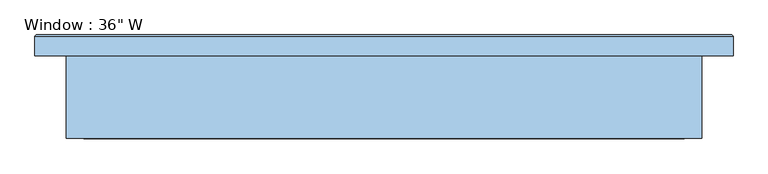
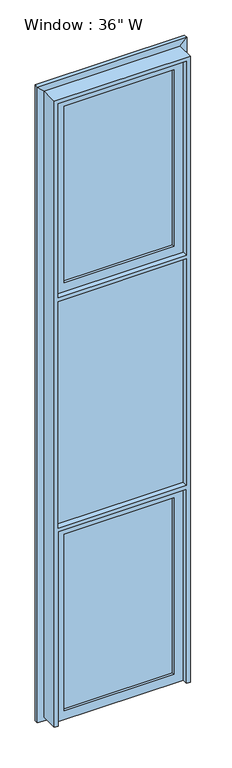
"""IFC4 building model written with IfcOpenShell, lengths in millimetres: window geometry."""

import ifcopenshell
import ifcopenshell.guid

model = None  # the IFC model being written
_history = None  # IfcOwnerHistory: only IFC2X3 demands one
_inside = {}  # id of a spatial element -> (the spatial element, [elements in it])
_under = {}  # id of a project, library or spatial element -> (it, [spatial elements below it])
_declared = {}  # id of a project -> (the project, [libraries it declares])
_typed = {}  # id of a type object -> (the type object, [elements of that type])
_made_of = {}  # id of a material, layer set ... -> (it, [elements and type objects made of it])


def new_model(schema):
    """Start an empty IFC model of exactly this schema.

    Asked for "IFC4X3", IfcOpenShell would pick the latest addendum, in which some entities
    have other attributes; the version numbers below select the first issue.
    IFC2X3 requires an IfcOwnerHistory on every rooted entity: one is made here for all.
    """
    global model, _history
    if schema == "IFC4X3":
        model = ifcopenshell.file(schema_version=(4, 3, 0, 0))
    else:
        model = ifcopenshell.file(schema=schema)
    _inside.clear()
    _under.clear()
    _declared.clear()
    _typed.clear()
    _made_of.clear()
    _history = None
    if model.schema == "IFC2X3":
        org = make("IfcOrganization", Name="unknown")
        user = make(
            "IfcPersonAndOrganization",
            ThePerson=make("IfcPerson", FamilyName="unknown"),
            TheOrganization=org,
        )
        app = make(
            "IfcApplication",
            ApplicationDeveloper=org,
            Version="unknown",
            ApplicationFullName="unknown",
            ApplicationIdentifier="unknown",
        )
        _history = make(
            "IfcOwnerHistory",
            OwningUser=user,
            OwningApplication=app,
            ChangeAction="ADDED",
            CreationDate=0,
        )
    return model


def make(cls, **values):
    """One entity of the class cls with the attributes given. An attribute that is None is left unset."""
    return model.create_entity(
        cls, **{name: value for name, value in values.items() if value is not None}
    )


def rooted(cls, **values):
    """An entity with a GlobalId (a new one), such as an element, a storey or a relation."""
    return make(cls, GlobalId=ifcopenshell.guid.new(), OwnerHistory=_history, **values)


def si_unit(unit_type, name, prefix=None):
    """IfcSIUnit, for example si_unit("LENGTHUNIT", "METRE", prefix="MILLI")."""
    return make("IfcSIUnit", UnitType=unit_type, Prefix=prefix, Name=name)


def assignment(units):
    """IfcUnitAssignment: the units of a project."""
    return None if units is None else make("IfcUnitAssignment", Units=units)


def point(xyz):
    """IfcCartesianPoint."""
    return None if xyz is None else make("IfcCartesianPoint", Coordinates=xyz)


def direction(xyz):
    """IfcDirection."""
    return None if xyz is None else make("IfcDirection", DirectionRatios=xyz)


def frame(location, z_axis=None, x_axis=None):
    """IfcAxis2Placement3D, a coordinate frame: its origin and axes. An axis left out is left unset."""
    return make(
        "IfcAxis2Placement3D",
        Location=point(location),
        Axis=direction(z_axis),
        RefDirection=direction(x_axis),
    )


def origin():
    """The frame at (0, 0, 0) with its axes left unset."""
    return frame((0.0, 0.0, 0.0))


def place(relative_to, where):
    """IfcLocalPlacement: puts the frame where relative to a parent placement (None: the world)."""
    return make(
        "IfcLocalPlacement", PlacementRelTo=relative_to, RelativePlacement=where
    )


def context(
    kind, dimensions, precision=None, world=None, true_north=None, identifier=None
):
    """IfcGeometricRepresentationContext, for example the 3D "Model" context."""
    return make(
        "IfcGeometricRepresentationContext",
        ContextIdentifier=identifier,
        ContextType=kind,
        CoordinateSpaceDimension=dimensions,
        Precision=precision,
        WorldCoordinateSystem=world,
        TrueNorth=true_north,
    )


def project(units=None, contexts=None):
    """IfcProject with its units and contexts."""
    return rooted(
        "IfcProject",
        Name="project",
        RepresentationContexts=contexts,
        UnitsInContext=assignment(units),
    )


def spatial(cls, under=None, at=None, **own):
    """A site, building, storey or space (cls), placed at a placement, below another one or the project."""
    s = rooted(cls, ObjectPlacement=at, **own)
    if under is not None:
        _under.setdefault(under.id(), (under, []))[1].append(s)
    return s


def polyline(points):
    """IfcPolyline through the points."""
    return make("IfcPolyline", Points=[point(p) for p in points])


def ellipse_curve(where, semi_axis1, semi_axis2):
    """IfcEllipse in the frame where."""
    return make(
        "IfcEllipse", Position=where, SemiAxis1=semi_axis1, SemiAxis2=semi_axis2
    )


def outline(outer, holes=None, kind="AREA"):
    """IfcArbitraryClosedProfileDef: a profile drawn as a closed curve; with holes, ...WithVoids."""
    if holes is None:
        return make("IfcArbitraryClosedProfileDef", ProfileType=kind, OuterCurve=outer)
    return make(
        "IfcArbitraryProfileDefWithVoids",
        ProfileType=kind,
        OuterCurve=outer,
        InnerCurves=holes,
    )


def extrude(swept, where, along, depth):
    """IfcExtrudedAreaSolid: the profile swept, set in the frame where, extruded along a direction by depth."""
    return make(
        "IfcExtrudedAreaSolid",
        SweptArea=swept,
        Position=where,
        ExtrudedDirection=direction(along),
        Depth=depth,
    )


def faces_of(points, faces, orient=None, outer=None):
    """IfcFace entities. A face is a list of loops; a loop is a list of indices into points, from 0.

    orient and outer hold one flag for each loop. By default every Orientation is true, the
    first loop of a face is its IfcFaceOuterBound and the others are IfcFaceBound.
    """
    made = []
    for i, loops in enumerate(faces):
        bounds = []
        for j, loop in enumerate(loops):
            is_outer = j == 0 if outer is None else outer[i][j]
            bounds.append(
                make(
                    "IfcFaceOuterBound" if is_outer else "IfcFaceBound",
                    Bound=make("IfcPolyLoop", Polygon=[points[k] for k in loop]),
                    Orientation=True if orient is None else orient[i][j],
                )
            )
        made.append(make("IfcFace", Bounds=bounds))
    return made


def faceted_brep(points, faces, orient=None, outer=None, voids=None):
    """IfcFacetedBrep: a solid bounded by flat faces; with voids (closed shells), ...WithVoids."""
    shared = [point(p) for p in points]
    hull = make("IfcClosedShell", CfsFaces=faces_of(shared, faces, orient, outer))
    if voids is None:
        return make("IfcFacetedBrep", Outer=hull)
    return make(
        "IfcFacetedBrepWithVoids",
        Outer=hull,
        Voids=[
            make(cls, CfsFaces=faces_of(shared, fs, o, b)) for cls, fs, o, b in voids
        ],
    )


def shape(context_of_items, identifier, shape_type, items):
    """IfcShapeRepresentation: the items that make up one representation, for example the "Body"."""
    return make(
        "IfcShapeRepresentation",
        ContextOfItems=context_of_items,
        RepresentationIdentifier=identifier,
        RepresentationType=shape_type,
        Items=items,
    )


def source(mapping_origin, context_of_items, identifier, shape_type, items):
    """IfcRepresentationMap: a shape defined once, which mapped items show again and again."""
    return make(
        "IfcRepresentationMap",
        MappingOrigin=mapping_origin,
        MappedRepresentation=shape(context_of_items, identifier, shape_type, items),
    )


def transform(
    local_origin,
    x_axis=None,
    y_axis=None,
    z_axis=None,
    scale=None,
    scale2=None,
    scale3=None,
    uniform=True,
):
    """IfcCartesianTransformationOperator3D, or its non-uniform kind. x_axis, y_axis, z_axis: its Axis1, 2, 3."""
    if uniform:
        return make(
            "IfcCartesianTransformationOperator3D",
            Axis1=direction(x_axis),
            Axis2=direction(y_axis),
            LocalOrigin=point(local_origin),
            Scale=scale,
            Axis3=direction(z_axis),
        )
    return make(
        "IfcCartesianTransformationOperator3DnonUniform",
        Axis1=direction(x_axis),
        Axis2=direction(y_axis),
        LocalOrigin=point(local_origin),
        Scale=scale,
        Axis3=direction(z_axis),
        Scale2=scale2,
        Scale3=scale3,
    )


def mapped(mapping_source, mapping_target):
    """IfcMappedItem: shows the shape of a source again, moved by a transform."""
    return make(
        "IfcMappedItem", MappingSource=mapping_source, MappingTarget=mapping_target
    )


def made_of(thing, what):
    """Note that an element or type object is made of a material, layer set ...; save() writes the relation."""
    if what is not None:
        _made_of.setdefault(what.id(), (what, []))[1].append(thing)
    return thing


def element(
    cls,
    number,
    at=None,
    inside=None,
    cuts=None,
    type_object=None,
    material=None,
    context=None,
    identifier="Body",
    shape_type=None,
    held_by="IfcProductDefinitionShape",
    body=None,
    shapes=None,
    **own,
):
    """One element of the class cls, such as IfcWall. Its Tag is "e" and its number.

    at: its placement. inside: the storey or other place that contains it. cuts: it is an
    opening in that element (IfcRelVoidsElement). A single representation is given by context,
    identifier, shape_type and body (its items); several are given by shapes. held_by: the class
    of the entity that holds the representations. save() writes the other relations.
    """
    e = rooted(cls, Tag="e%d" % number, ObjectPlacement=at, **own)
    if body is not None:
        shapes = [shape(context, identifier, shape_type, body)]
    if shapes is not None:
        e.Representation = make(held_by, Representations=shapes)
    if inside is not None:
        _inside.setdefault(inside.id(), (inside, []))[1].append(e)
    if cuts is not None:
        rooted(
            "IfcRelVoidsElement", RelatingBuildingElement=cuts, RelatedOpeningElement=e
        )
    if type_object is not None:
        _typed.setdefault(type_object.id(), (type_object, []))[1].append(e)
    return made_of(e, material)


def aggregate(whole, parts):
    """IfcRelAggregates: a whole, such as a stair, and the parts it consists of."""
    return rooted("IfcRelAggregates", RelatingObject=whole, RelatedObjects=parts)


def save(model, path):
    """Write the relations noted so far, then the file.

    IfcRelAggregates (storeys below a building ...), IfcRelContainedInSpatialStructure (elements
    in a storey), IfcRelDefinesByType, IfcRelAssociatesMaterial and IfcRelDeclares: one each for
    every whole, place, type object, material and project.
    """
    for whole, parts in _under.values():
        aggregate(whole, parts)
    for where, things in _inside.values():
        rooted(
            "IfcRelContainedInSpatialStructure",
            RelatedElements=things,
            RelatingStructure=where,
        )
    for kind, things in _typed.values():
        rooted("IfcRelDefinesByType", RelatedObjects=things, RelatingType=kind)
    for what, things in _made_of.values():
        rooted("IfcRelAssociatesMaterial", RelatedObjects=things, RelatingMaterial=what)
    for by, libraries in _declared.values():
        rooted("IfcRelDeclares", RelatingContext=by, RelatedDefinitions=libraries)
    model.write(path)


def plane_surface(at):
    """IfcPlane: the flat surface through the origin of the frame at, square to its z axis."""
    return make("IfcPlane", Position=at)


def cylinder_surface(at, radius):
    """IfcCylindricalSurface: all points at the distance radius from the z axis of the frame at."""
    return make("IfcCylindricalSurface", Position=at, Radius=radius)


def advanced_brep(points, edges, surfaces, faces):
    """IfcAdvancedBrep: a solid bounded by faces that lie on surfaces and meet in shared edges.

    An edge is (start, end): straight between two places in points (the first is 0);
    or (start, end, curve); or (start, end, curve, False) where it runs against its curve.
    A face is (place in surfaces, loops), or (place, loops, False) where it looks against
    its surface's normal. A loop lists edges by number (the first is 1), with a minus sign
    where the edge is run from its end to its start. The first loop is the outer one.
    """
    corners = [point(p) for p in points]
    vertices = [make("IfcVertexPoint", VertexGeometry=c) for c in corners]
    made = []
    for start, end, *more in edges:
        made.append(
            make(
                "IfcEdgeCurve",
                EdgeStart=vertices[start],
                EdgeEnd=vertices[end],
                EdgeGeometry=more[0] if more else make("IfcPolyline", Points=[corners[start], corners[end]]),
                SameSense=more[1] if len(more) > 1 else True,
            )
        )
    hull = []
    for where, loops, *sense in faces:
        bounds = []
        for j, loop in enumerate(loops):
            ring = [make("IfcOrientedEdge", EdgeElement=made[abs(k) - 1], Orientation=k > 0) for k in loop]
            bounds.append(
                make(
                    "IfcFaceOuterBound" if j == 0 else "IfcFaceBound",
                    Bound=make("IfcEdgeLoop", EdgeList=ring),
                    Orientation=True,
                )
            )
        hull.append(make("IfcAdvancedFace", Bounds=bounds, FaceSurface=surfaces[where], SameSense=sense[0] if sense else True))
    return make("IfcAdvancedBrep", Outer=make("IfcClosedShell", CfsFaces=hull))


def window_fc414b9c(model_context):
    return source(origin(), model_context, "Body", "SolidModel", [
        faceted_brep([(444.5, 119.0625, 781.05), (446.4950984, 121.0575984, 781.05), (446.745064, 121.307564, 781.05), (472.145064, 121.307564, 781.05), (474.3901281, 123.5526281, 781.05), (499.7901281, 123.5526281, 781.05), (502.0351921, 121.307564, 781.05), (502.0351921, 121.0575984, 781.05), (502.0351921, 93.6625, 781.05), (444.5, 93.6625, 781.05), (444.5, 119.0625, 781.5176691), (444.5, 119.0625, 5232.4), (446.745064, 121.307564, 5234.645064), (472.145064, 121.307564, 5260.045064), (474.3901281, 123.5526281, 5262.2901281), (499.7901281, 123.5526281, 5287.6901281), (502.0351921, 121.307564, 5289.9351921), (502.0351921, 93.6625, 5289.9351921), (502.0351921, 93.6625, 787.4716586), (444.5, 93.6625, 5232.4), (444.5, 93.6625, 787.4716586), (-444.5, 119.0625, 5232.4), (-446.745064, 121.307564, 5234.645064), (-472.145064, 121.307564, 5260.045064), (-474.3901281, 123.5526281, 5262.2901281), (-499.7901281, 123.5526281, 5287.6901281), (-502.0351921, 121.307564, 5289.9351921), (-502.0351921, 93.6625, 5289.9351921), (-444.5, 93.6625, 5232.4), (-444.5, 119.0625, 781.05), (-444.5, 93.6625, 781.05), (-502.0351921, 93.6625, 781.05), (-502.0351921, 121.0575984, 781.05), (-502.0351921, 121.307564, 781.05), (-499.7901281, 123.5526281, 781.05), (-474.3901281, 123.5526281, 781.05), (-472.145064, 121.307564, 781.05), (-446.745064, 121.307564, 781.05), (-446.4950984, 121.0575984, 781.05), (-444.5, 119.0625, 781.5176691), (-502.0351921, 93.6625, 787.4716586), (-444.5, 93.6625, 787.4716586)], [[[0, 1, 2, 3, 4, 5, 6, 7, 8, 9]], [[2, 1, 0, 10, 11, 12]], [[3, 2, 12, 13]], [[4, 3, 13, 14]], [[5, 4, 14, 15]], [[6, 5, 15, 16]], [[8, 7, 6, 16, 17, 18]], [[9, 8, 18, 17, 19, 20]], [[0, 9, 20, 19, 11, 10]], [[12, 11, 21, 22]], [[13, 12, 22, 23]], [[14, 13, 23, 24]], [[15, 14, 24, 25]], [[16, 15, 25, 26]], [[17, 16, 26, 27]], [[19, 17, 27, 28]], [[11, 19, 28, 21]], [[29, 30, 31, 32, 33, 34, 35, 36, 37, 38]], [[22, 21, 39, 29, 38, 37]], [[23, 22, 37, 36]], [[24, 23, 36, 35]], [[25, 24, 35, 34]], [[26, 25, 34, 33]], [[27, 26, 33, 32, 31, 40]], [[28, 27, 40, 31, 30, 41]], [[21, 28, 41, 30, 29, 39]]]),
        extrude(outline(polyline([(2184.4, -431.8), (806.45, -431.8), (806.45, 431.8), (2184.4, 431.8), (2184.4, -431.8)]), holes=[polyline([(2120.9, -368.3), (2120.9, 368.3), (869.95, 368.3), (869.95, -368.3), (2120.9, -368.3)])]), frame((0.0, 12.7, 0.0), z_axis=(0.0, 1.0, 0.0), x_axis=(0.0, 0.0, 1.0)), (0.0, 0.0, 1.0), 50.6015625),
        extrude(outline(polyline([(5219.7, -431.8), (3841.75, -431.8), (3841.75, 431.8), (5219.7, 431.8), (5219.7, -431.8)]), holes=[polyline([(5156.2, -368.3), (5156.2, 368.3), (3905.25, 368.3), (3905.25, -368.3), (5156.2, -368.3)])]), frame((0.0, 12.7, 0.0), z_axis=(0.0, 1.0, 0.0), x_axis=(0.0, 0.0, 1.0)), (0.0, 0.0, 1.0), 50.6015625),
        extrude(outline(polyline([(431.8, 12.7), (-431.8, 12.7), (-431.8, 63.3015625), (431.8, 63.3015625), (431.8, 12.7)])), frame((0.0, 0.0, 2209.8), z_axis=(0.0, 0.0, 1.0), x_axis=(1.0, 0.0, 0.0)), (0.0, 0.0, 1.0), 1606.55),
        extrude(outline(polyline([(5245.1, -457.2), (806.45, -457.2), (806.45, -431.8), (2184.4, -431.8), (2184.4, 431.8), (806.45, 431.8), (806.45, 457.2), (5245.1, 457.2), (5245.1, -457.2)]), holes=[polyline([(5219.7, -431.8), (5219.7, 431.8), (3841.75, 431.8), (3841.75, -431.8), (5219.7, -431.8)]), polyline([(3816.35, -431.8), (3816.35, 431.8), (2209.8, 431.8), (2209.8, -431.8), (3816.35, -431.8)])]), frame((0.0, -25.4, 0.0), z_axis=(0.0, 1.0, 0.0), x_axis=(0.0, 0.0, 1.0)), (0.0, 0.0, 1.0), 119.0625),
        extrude(outline(polyline([(368.3, 29.5671875), (-368.3, 29.5671875), (-368.3, 46.434375), (368.3, 46.434375), (368.3, 29.5671875)])), frame((0.0, 0.0, 869.95), z_axis=(0.0, 0.0, 1.0), x_axis=(1.0, 0.0, 0.0)), (0.0, 0.0, 1.0), 1250.95),
        extrude(outline(polyline([(-368.3, 46.434375), (368.3, 46.434375), (368.3, 29.5671875), (-368.3, 29.5671875), (-368.3, 46.434375)])), frame((0.0, 0.0, 3905.25), z_axis=(0.0, 0.0, 1.0), x_axis=(1.0, 0.0, 0.0)), (0.0, 0.0, 1.0), 1250.95),
        extrude(outline(polyline([(-330.2, 88.7015625), (330.2, 88.7015625), (330.2, 63.3015625), (-330.2, 63.3015625), (-330.2, 88.7015625)])), frame((0.0, 0.0, 2311.4), z_axis=(0.0, 0.0, 1.0), x_axis=(1.0, 0.0, 0.0)), (0.0, 0.0, 1.0), 1403.35),
        advanced_brep(
        [(-330.2, 63.3015625, 3714.75), (-355.6, 63.3015625, 3740.15), (-355.6, 63.3015625, 2286.0), (-330.2, 63.3015625, 2311.4), (-330.2, 88.7015625, 3714.75), (-330.2, 88.7015625, 2311.4), (-333.375, 88.7015625, 3717.925), (-333.375, 88.7015625, 2308.225), (-333.375, 85.5265625, 3717.925), (-333.375, 85.5265625, 2308.225), (-352.425, 66.4765625, 3736.975), (-352.425, 66.4765625, 2289.175), (-355.6, 66.4765625, 3740.15), (-355.6, 66.4765625, 2286.0), (355.6, 63.3015625, 2286.0), (330.2, 63.3015625, 2311.4), (330.2, 88.7015625, 2311.4), (333.375, 88.7015625, 2308.225), (333.375, 85.5265625, 2308.225), (352.425, 66.4765625, 2289.175), (355.6, 66.4765625, 2286.0), (355.6, 63.3015625, 3740.15), (330.2, 63.3015625, 3714.75), (330.2, 88.7015625, 3714.75), (333.375, 88.7015625, 3717.925), (333.375, 85.5265625, 3717.925), (352.425, 66.4765625, 3736.975), (355.6, 66.4765625, 3740.15)],
        [
            (0, 1),
            (1, 2),
            (2, 3),
            (3, 0),
            (4, 0),
            (3, 5),
            (5, 4),
            (6, 4),
            (5, 7),
            (7, 6),
            (8, 6),
            (7, 9),
            (9, 8),
            (10, 8, ellipse_curve(frame((-333.375, 66.4765625, 3717.925), z_axis=(-0.7071067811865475, 0.0, -0.7071067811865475), x_axis=(-0.7071067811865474, 0.0, 0.7071067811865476)), 26.9407684, 19.05)),
            (9, 11, ellipse_curve(frame((-333.375, 66.4765625, 2308.225), z_axis=(-0.7071067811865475, 0.0, 0.7071067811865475), x_axis=(0.7071067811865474, 0.0, 0.7071067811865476)), 26.9407684, 19.05)),
            (11, 10),
            (12, 10),
            (11, 13),
            (13, 12),
            (1, 12),
            (13, 2),
            (2, 14),
            (14, 15),
            (15, 3),
            (15, 16),
            (16, 5),
            (16, 17),
            (17, 7),
            (17, 18),
            (18, 9),
            (18, 19, ellipse_curve(frame((333.375, 66.4765625, 2308.225), z_axis=(-0.7071067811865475, 0.0, -0.7071067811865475), x_axis=(-0.7071067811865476, 0.0, 0.7071067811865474)), 26.9407684, 19.05)),
            (19, 11),
            (19, 20),
            (20, 13),
            (20, 14),
            (14, 21),
            (21, 22),
            (22, 15),
            (22, 23),
            (23, 16),
            (23, 24),
            (24, 17),
            (24, 25),
            (25, 18),
            (25, 26, ellipse_curve(frame((333.375, 66.4765625, 3717.925), z_axis=(0.7071067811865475, 0.0, -0.7071067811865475), x_axis=(-0.7071067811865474, 0.0, -0.7071067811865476)), 26.9407684, 19.05)),
            (26, 19),
            (26, 27),
            (27, 20),
            (27, 21),
            (21, 1),
            (0, 22),
            (4, 23),
            (6, 24),
            (8, 25),
            (10, 26),
            (12, 27),
        ],
        [
            plane_surface(frame((-355.6, 63.3015625, 3740.15), z_axis=(0.0, -1.0, 0.0), x_axis=(0.0, 0.0, -1.0))),
            plane_surface(frame((-330.2, 63.3015625, 3714.75), z_axis=(1.0, 0.0, 0.0), x_axis=(0.0, 0.0, -1.0))),
            plane_surface(frame((-330.2, 88.7015625, 3714.75), z_axis=(0.0, 1.0, 0.0), x_axis=(0.0, 0.0, -1.0))),
            plane_surface(frame((-333.375, 88.7015625, 3717.925), z_axis=(-1.0, 0.0, 0.0), x_axis=(0.0, 0.0, -1.0))),
            cylinder_surface(frame((-333.375, 66.4765625, 3714.75), z_axis=(0.0, 0.0, 1.0), x_axis=(1.0, 0.0, 0.0)), 19.05),
            plane_surface(frame((-352.425, 66.4765625, 3736.975), z_axis=(0.0, 1.0, 0.0), x_axis=(0.0, 0.0, -1.0))),
            plane_surface(frame((-355.6, 66.4765625, 3740.15), z_axis=(-1.0, 0.0, 0.0), x_axis=(0.0, 0.0, -1.0))),
            plane_surface(frame((-355.6, 63.3015625, 2286.0), z_axis=(0.0, -1.0, 0.0), x_axis=(1.0, 0.0, 0.0))),
            plane_surface(frame((-330.2, 63.3015625, 2311.4), z_axis=(0.0, 0.0, 1.0), x_axis=(1.0, 0.0, 0.0))),
            plane_surface(frame((-330.2, 88.7015625, 2311.4), z_axis=(0.0, 1.0, 0.0), x_axis=(1.0, 0.0, 0.0))),
            plane_surface(frame((-333.375, 88.7015625, 2308.225), z_axis=(0.0, 0.0, -1.0), x_axis=(1.0, 0.0, 0.0))),
            cylinder_surface(frame((-330.2, 66.4765625, 2308.225), z_axis=(-1.0, 0.0, 0.0), x_axis=(0.0, 0.0, 1.0)), 19.05),
            plane_surface(frame((-352.425, 66.4765625, 2289.175), z_axis=(0.0, 1.0, 0.0), x_axis=(1.0, 0.0, 0.0))),
            plane_surface(frame((-355.6, 66.4765625, 2286.0), z_axis=(0.0, 0.0, -1.0), x_axis=(1.0, 0.0, 0.0))),
            plane_surface(frame((355.6, 63.3015625, 2286.0), z_axis=(0.0, -1.0, 0.0), x_axis=(0.0, 0.0, 1.0))),
            plane_surface(frame((330.2, 63.3015625, 2311.4), z_axis=(-1.0, 0.0, 0.0), x_axis=(0.0, 0.0, 1.0))),
            plane_surface(frame((330.2, 88.7015625, 2311.4), z_axis=(0.0, 1.0, 0.0), x_axis=(0.0, 0.0, 1.0))),
            plane_surface(frame((333.375, 88.7015625, 2308.225), z_axis=(1.0, 0.0, 0.0), x_axis=(0.0, 0.0, 1.0))),
            cylinder_surface(frame((333.375, 66.4765625, 2311.4), z_axis=(0.0, 0.0, -1.0), x_axis=(-1.0, 0.0, 0.0)), 19.05),
            plane_surface(frame((352.425, 66.4765625, 2289.175), z_axis=(0.0, 1.0, 0.0), x_axis=(0.0, 0.0, 1.0))),
            plane_surface(frame((355.6, 66.4765625, 2286.0), z_axis=(1.0, 0.0, 0.0), x_axis=(0.0, 0.0, 1.0))),
            plane_surface(frame((355.6, 63.3015625, 3740.15), z_axis=(0.0, -1.0, 0.0), x_axis=(-1.0, 0.0, 0.0))),
            plane_surface(frame((330.2, 63.3015625, 3714.75), z_axis=(0.0, 0.0, -1.0), x_axis=(-1.0, 0.0, 0.0))),
            plane_surface(frame((330.2, 88.7015625, 3714.75), z_axis=(0.0, 1.0, 0.0), x_axis=(-1.0, 0.0, 0.0))),
            plane_surface(frame((333.375, 88.7015625, 3717.925), z_axis=(0.0, 0.0, 1.0), x_axis=(-1.0, 0.0, 0.0))),
            cylinder_surface(frame((330.2, 66.4765625, 3717.925), z_axis=(1.0, 0.0, 0.0), x_axis=(0.0, 0.0, -1.0)), 19.05),
            plane_surface(frame((352.425, 66.4765625, 3736.975), z_axis=(0.0, 1.0, 0.0), x_axis=(-1.0, 0.0, 0.0))),
            plane_surface(frame((355.6, 66.4765625, 3740.15), z_axis=(0.0, 0.0, 1.0), x_axis=(-1.0, 0.0, 0.0))),
        ],
        [
            (0, [[1, 2, 3, 4]]),
            (1, [[5, -4, 6, 7]]),
            (2, [[8, -7, 9, 10]]),
            (3, [[11, -10, 12, 13]]),
            (4, [[14, -13, 15, 16]]),
            (5, [[17, -16, 18, 19]]),
            (6, [[20, -19, 21, -2]]),
            (7, [[-3, 22, 23, 24]]),
            (8, [[-6, -24, 25, 26]]),
            (9, [[-9, -26, 27, 28]]),
            (10, [[-12, -28, 29, 30]]),
            (11, [[-15, -30, 31, 32]]),
            (12, [[-18, -32, 33, 34]]),
            (13, [[-21, -34, 35, -22]]),
            (14, [[-23, 36, 37, 38]]),
            (15, [[-25, -38, 39, 40]]),
            (16, [[-27, -40, 41, 42]]),
            (17, [[-29, -42, 43, 44]]),
            (18, [[-31, -44, 45, 46]]),
            (19, [[-33, -46, 47, 48]]),
            (20, [[-35, -48, 49, -36]]),
            (21, [[-37, 50, -1, 51]]),
            (22, [[-39, -51, -5, 52]]),
            (23, [[-41, -52, -8, 53]]),
            (24, [[-43, -53, -11, 54]]),
            (25, [[-45, -54, -14, 55]]),
            (26, [[-47, -55, -17, 56]]),
            (27, [[-49, -56, -20, -50]]),
        ],
    ),
    ])


if __name__ == "__main__":
    model = new_model("IFC4")
    model_context = context("Model", 3, world=origin())
    ifc_project = project(units=[si_unit("LENGTHUNIT", "METRE", prefix="MILLI")], contexts=[model_context])
    site = spatial("IfcSite", under=ifc_project)
    building = spatial("IfcBuilding", under=site)
    placement = place(None, origin())
    window_shape = window_fc414b9c(model_context)
    element("IfcWindow", 1, ObjectType="Window : 36\" W", at=placement, inside=building, context=model_context, shape_type="MappedRepresentation", body=[
        mapped(window_shape, transform((0.0, 0.0, 0.0), x_axis=(1.0, 0.0, 0.0), y_axis=(0.0, 1.0, 0.0), z_axis=(0.0, 0.0, 1.0))),
    ])
    save(model, "model.ifc")
